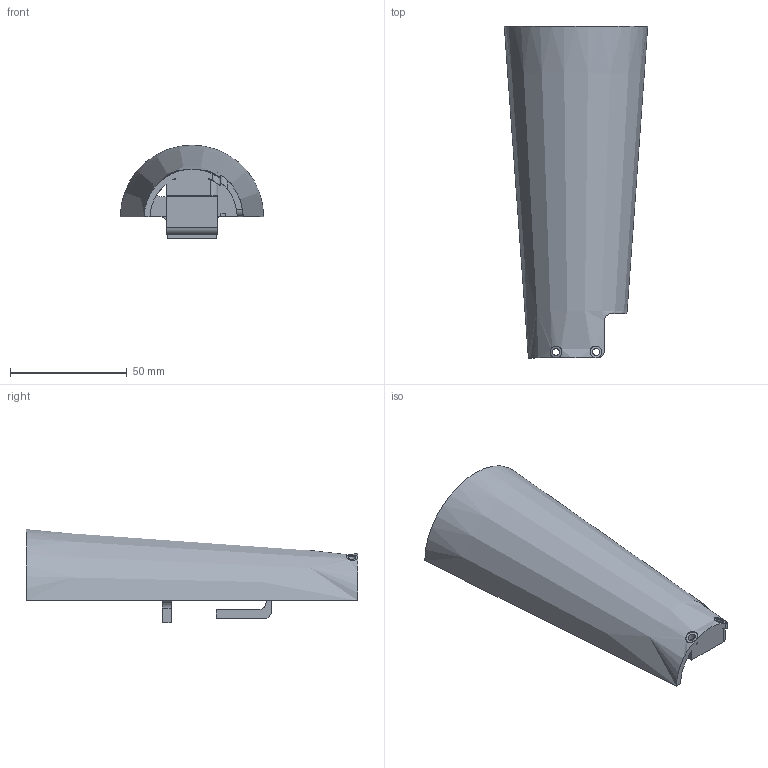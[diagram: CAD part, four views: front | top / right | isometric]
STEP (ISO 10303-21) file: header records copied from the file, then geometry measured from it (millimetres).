
FILE_DESCRIPTION((''),'2;1');
FILE_NAME('C:\Documents and Settings\Powderly\Desktop\UpperArmMountingSubstrate.stp','2005-08-09T02:19:59',('Powderly'),(''),'Autodesk Inventor 10','Autodesk Inventor 10','');
FILE_SCHEMA(('AUTOMOTIVE_DESIGN { 1 0 10303 214 1 1 1 1 }'));
Length unit declared in the file: inch
Products named in the file (1): UpperArmMountingSubstrate
Bounding box: 61.47 x 142.24 x 40.18 mm (x, y, z)
Volume: 60505.2 mm3; surface area: 28175.3 mm2
Topology: 1 solids, 1 shells, 75 faces, 210 edges, 138 vertices
Faces by surface type: plane 42, cylinder 31, cone 2
Full cylindrical faces by diameter (mm): 3.048 x3, 5.08 x2, 8.89 x1, 9.449 x1, 9.525 x1
Entity records: 2697 total; most frequent: CARTESIAN_POINT 792, ORIENTED_EDGE 396, DIRECTION 373, EDGE_CURVE 198, VERTEX_POINT 133, AXIS2_PLACEMENT_3D 126, VECTOR 121, LINE 121
